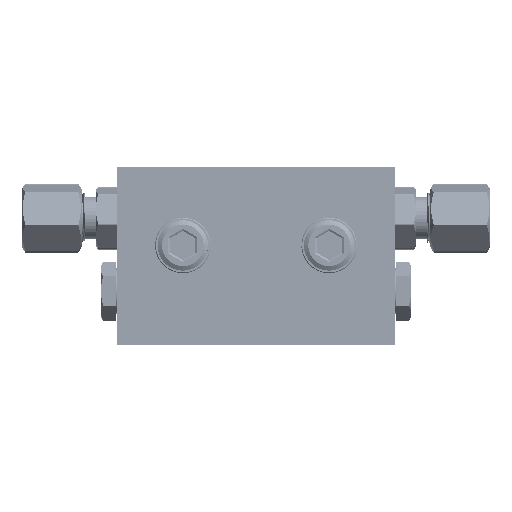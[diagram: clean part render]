
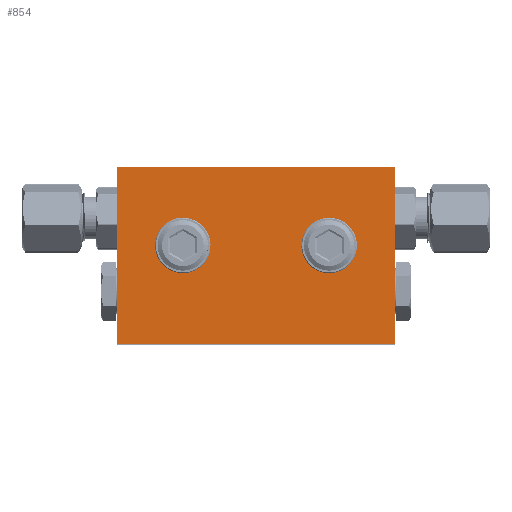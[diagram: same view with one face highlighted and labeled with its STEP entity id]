
A CAD part, top view. The second image highlights one B-rep face of the part: STEP entity #854.
In plain terms, the highlighted planar face has unit normal (0, 0, 1) as drawn and (0, 0, -1) by its records, which use the part's own axes.
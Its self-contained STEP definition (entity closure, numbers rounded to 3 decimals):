
#206 = VECTOR ( 'NONE', #38812, 1000. ) ;
#553 = EDGE_CURVE ( 'NONE', #4730, #4730, #30597, .T. ) ;
#854 = ADVANCED_FACE ( 'NONE', ( #33243, #42834, #19468 ), #19673, .F. ) ;
#936 = VERTEX_POINT ( 'NONE', #33682 ) ;
#1722 = VECTOR ( 'NONE', #31980, 1000. ) ;
#2193 = DIRECTION ( 'NONE',  ( 1., 0., 0. ) ) ;
#4272 = DIRECTION ( 'NONE',  ( 0., 0., -1. ) ) ;
#4730 = VERTEX_POINT ( 'NONE', #11958 ) ;
#4927 = LINE ( 'NONE', #18422, #1722 ) ;
#6056 = EDGE_CURVE ( 'NONE', #936, #8692, #25954, .T. ) ;
#6398 = CARTESIAN_POINT ( 'NONE',  ( 0., 0., -4.85 ) ) ;
#8660 = CARTESIAN_POINT ( 'NONE',  ( 14.5, -15.5, -4.85 ) ) ;
#8692 = VERTEX_POINT ( 'NONE', #14309 ) ;
#9068 = DIRECTION ( 'NONE',  ( 1., 0., 0. ) ) ;
#10541 = ORIENTED_EDGE ( 'NONE', *, *, #19837, .F. ) ;
#10654 = DIRECTION ( 'NONE',  ( 1., 0., 0. ) ) ;
#10880 = CARTESIAN_POINT ( 'NONE',  ( -14.5, -15.5, -4.85 ) ) ;
#11544 = DIRECTION ( 'NONE',  ( -1., 0., 0. ) ) ;
#11690 = ORIENTED_EDGE ( 'NONE', *, *, #11781, .F. ) ;
#11781 = EDGE_CURVE ( 'NONE', #29976, #29976, #39928, .T. ) ;
#11958 = CARTESIAN_POINT ( 'NONE',  ( 11.4, -15.5, -4.85 ) ) ;
#12138 = CARTESIAN_POINT ( 'NONE',  ( 0., 0., -4.85 ) ) ;
#13061 = CARTESIAN_POINT ( 'NONE',  ( 0., -35., -4.85 ) ) ;
#14096 = CARTESIAN_POINT ( 'NONE',  ( -27.5, -35., -4.85 ) ) ;
#14288 = EDGE_LOOP ( 'NONE', ( #11690 ) ) ;
#14309 = CARTESIAN_POINT ( 'NONE',  ( -27.5, 0., -4.85 ) ) ;
#15634 = EDGE_LOOP ( 'NONE', ( #10541, #30339, #30115, #40444 ) ) ;
#15751 = LINE ( 'NONE', #13061, #30886 ) ;
#18422 = CARTESIAN_POINT ( 'NONE',  ( -27.5, 0., -4.85 ) ) ;
#18927 = EDGE_LOOP ( 'NONE', ( #42895 ) ) ;
#19468 = FACE_OUTER_BOUND ( 'NONE', #15634, .T. ) ;
#19673 = PLANE ( 'NONE',  #42000 ) ;
#19837 = EDGE_CURVE ( 'NONE', #22701, #41045, #15751, .T. ) ;
#20735 = AXIS2_PLACEMENT_3D ( 'NONE', #10880, #4272, #10654 ) ;
#21978 = DIRECTION ( 'NONE',  ( 0., 0., -1. ) ) ;
#22607 = DIRECTION ( 'NONE',  ( -1., 0., 0. ) ) ;
#22701 = VERTEX_POINT ( 'NONE', #14096 ) ;
#22822 = AXIS2_PLACEMENT_3D ( 'NONE', #8660, #21978, #11544 ) ;
#25954 = LINE ( 'NONE', #12138, #43183 ) ;
#27246 = EDGE_CURVE ( 'NONE', #41045, #936, #41492, .T. ) ;
#29976 = VERTEX_POINT ( 'NONE', #39559 ) ;
#30115 = ORIENTED_EDGE ( 'NONE', *, *, #6056, .F. ) ;
#30339 = ORIENTED_EDGE ( 'NONE', *, *, #40744, .F. ) ;
#30597 = CIRCLE ( 'NONE', #22822, 3.1 ) ;
#30886 = VECTOR ( 'NONE', #9068, 1000. ) ;
#31980 = DIRECTION ( 'NONE',  ( 0., -1., 0. ) ) ;
#33243 = FACE_BOUND ( 'NONE', #14288, .T. ) ;
#33682 = CARTESIAN_POINT ( 'NONE',  ( 27.5, 0., -4.85 ) ) ;
#36152 = DIRECTION ( 'NONE',  ( 0., 0., 1. ) ) ;
#37203 = CARTESIAN_POINT ( 'NONE',  ( 27.5, -35., -4.85 ) ) ;
#38591 = CARTESIAN_POINT ( 'NONE',  ( 27.5, 0., -4.85 ) ) ;
#38812 = DIRECTION ( 'NONE',  ( 0., 1., 0. ) ) ;
#39559 = CARTESIAN_POINT ( 'NONE',  ( -11.4, -15.5, -4.85 ) ) ;
#39928 = CIRCLE ( 'NONE', #20735, 3.1 ) ;
#40444 = ORIENTED_EDGE ( 'NONE', *, *, #27246, .F. ) ;
#40744 = EDGE_CURVE ( 'NONE', #8692, #22701, #4927, .T. ) ;
#41045 = VERTEX_POINT ( 'NONE', #37203 ) ;
#41492 = LINE ( 'NONE', #38591, #206 ) ;
#42000 = AXIS2_PLACEMENT_3D ( 'NONE', #6398, #36152, #2193 ) ;
#42834 = FACE_BOUND ( 'NONE', #18927, .T. ) ;
#42895 = ORIENTED_EDGE ( 'NONE', *, *, #553, .F. ) ;
#43183 = VECTOR ( 'NONE', #22607, 1000. ) ;
